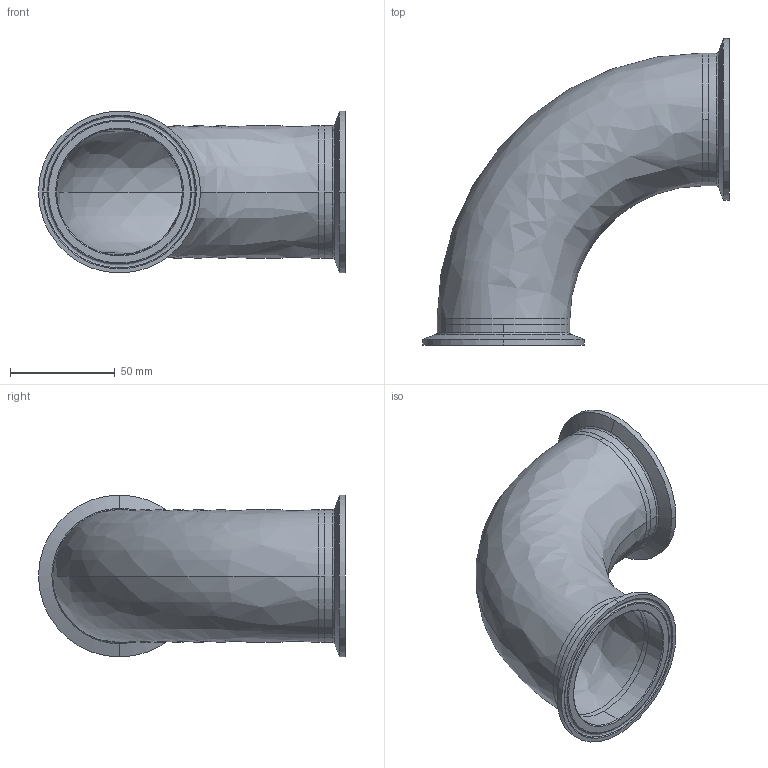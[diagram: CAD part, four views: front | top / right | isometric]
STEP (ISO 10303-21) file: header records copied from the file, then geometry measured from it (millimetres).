
FILE_DESCRIPTION (( 'STEP AP214' ), '1' );
FILE_NAME ('TEG2C6L2.5-...STEP', '2016-05-22T10:44:51', ( 'eran' ), ( '' ), 'SwSTEP 2.0', 'SolidWorks 2016', '' );
FILE_SCHEMA (( 'AUTOMOTIVE_DESIGN' ));
Length unit declared in the file: millimetre
Products named in the file (1): TEG2C6L2.5-..
Bounding box: 146.7 x 146.7 x 77.39 mm (x, y, z)
Volume: 68093.2 mm3; surface area: 75681.8 mm2
Topology: 3 solids, 3 shells, 64 faces, 162 edges, 106 vertices
Faces by surface type: bspline 24, cylinder 20, cone 12, plane 8
Entity records: 3434 total; most frequent: CARTESIAN_POINT 1829, DIRECTION 350, ORIENTED_EDGE 324, EDGE_CURVE 162, AXIS2_PLACEMENT_3D 159, CIRCLE 118, VERTEX_POINT 106, EDGE_LOOP 72
